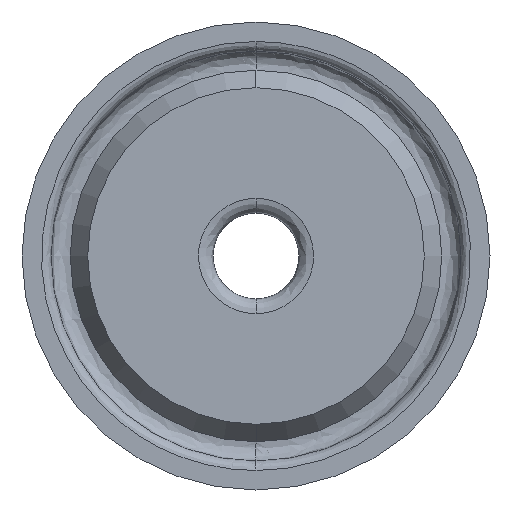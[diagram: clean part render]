
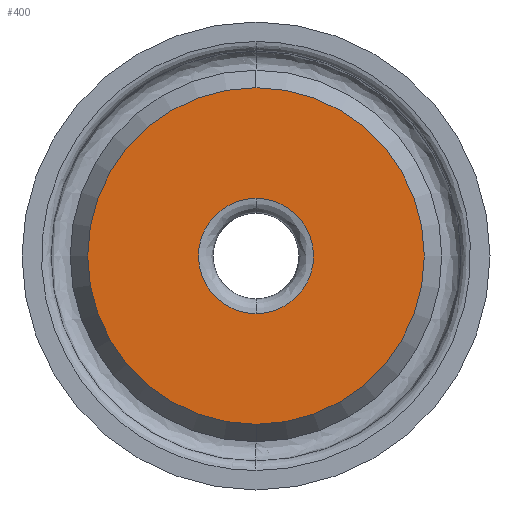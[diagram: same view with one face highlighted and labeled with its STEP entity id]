
A CAD part, left-side view. The second image highlights one B-rep face of the part: STEP entity #400.
In plain terms, the highlighted planar face has unit normal (-1, 0, 0).
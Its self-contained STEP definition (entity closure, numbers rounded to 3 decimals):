
#1 = CARTESIAN_POINT ( 'NONE',  ( 0.787, 0., -8.987 ) ) ;
#5 = FACE_OUTER_BOUND ( 'NONE', #364, .T. ) ;
#16 = CARTESIAN_POINT ( 'NONE',  ( 0.787, 0., 8.987 ) ) ;
#44 = CARTESIAN_POINT ( 'NONE',  ( 0.787, 0., 3.073 ) ) ;
#74 = AXIS2_PLACEMENT_3D ( 'NONE', #478, #403, #433 ) ;
#91 =( BOUNDED_CURVE ( )  B_SPLINE_CURVE ( 3, ( #677, #664, #713, #187 ),
 .UNSPECIFIED., .F., .F. ) 
 B_SPLINE_CURVE_WITH_KNOTS ( ( 4, 4 ),
 ( 0., 1. ),
 .UNSPECIFIED. ) 
 CURVE ( )  GEOMETRIC_REPRESENTATION_ITEM ( )  RATIONAL_B_SPLINE_CURVE ( ( 1., 0.333, 0.333, 1. ) ) 
 REPRESENTATION_ITEM ( '' )  );
#113 = ORIENTED_EDGE ( 'NONE', *, *, #508, .F. ) ;
#118 = EDGE_LOOP ( 'NONE', ( #113, #615 ) ) ;
#168 = ORIENTED_EDGE ( 'NONE', *, *, #498, .F. ) ;
#181 = EDGE_CURVE ( 'NONE', #458, #666, #350, .T. ) ;
#187 = CARTESIAN_POINT ( 'NONE',  ( 0.787, 0., 3.073 ) ) ;
#219 = CARTESIAN_POINT ( 'NONE',  ( 0.787, 3.073, 0. ) ) ;
#240 = VERTEX_POINT ( 'NONE', #1 ) ;
#264 = AXIS2_PLACEMENT_3D ( 'NONE', #219, #714, #657 ) ;
#286 = AXIS2_PLACEMENT_3D ( 'NONE', #533, #529, #522 ) ;
#298 = VERTEX_POINT ( 'NONE', #16 ) ;
#307 = CARTESIAN_POINT ( 'NONE',  ( 0.787, 6.147, 3.073 ) ) ;
#350 =( BOUNDED_CURVE ( )  B_SPLINE_CURVE ( 3, ( #358, #307, #603, #513 ),
 .UNSPECIFIED., .F., .F. ) 
 B_SPLINE_CURVE_WITH_KNOTS ( ( 4, 4 ),
 ( 0., 1. ),
 .UNSPECIFIED. ) 
 CURVE ( )  GEOMETRIC_REPRESENTATION_ITEM ( )  RATIONAL_B_SPLINE_CURVE ( ( 1., 0.333, 0.333, 1. ) ) 
 REPRESENTATION_ITEM ( '' )  );
#358 = CARTESIAN_POINT ( 'NONE',  ( 0.787, 0., 3.073 ) ) ;
#364 = EDGE_LOOP ( 'NONE', ( #168, #526 ) ) ;
#400 = ADVANCED_FACE ( 'NONE', ( #5, #633 ), #723, .F. ) ;
#403 = DIRECTION ( 'NONE',  ( 1., 0., 0. ) ) ;
#433 = DIRECTION ( 'NONE',  ( 0., 0., -1. ) ) ;
#458 = VERTEX_POINT ( 'NONE', #44 ) ;
#472 = CIRCLE ( 'NONE', #74, 8.987 ) ;
#478 = CARTESIAN_POINT ( 'NONE',  ( 0.787, 0., 0. ) ) ;
#498 = EDGE_CURVE ( 'NONE', #240, #298, #600, .T. ) ;
#508 = EDGE_CURVE ( 'NONE', #666, #458, #91, .T. ) ;
#513 = CARTESIAN_POINT ( 'NONE',  ( 0.787, 0., -3.073 ) ) ;
#522 = DIRECTION ( 'NONE',  ( 0., 0., -1. ) ) ;
#526 = ORIENTED_EDGE ( 'NONE', *, *, #669, .F. ) ;
#529 = DIRECTION ( 'NONE',  ( 1., 0., 0. ) ) ;
#533 = CARTESIAN_POINT ( 'NONE',  ( 0.787, 0., 0. ) ) ;
#600 = CIRCLE ( 'NONE', #286, 8.987 ) ;
#603 = CARTESIAN_POINT ( 'NONE',  ( 0.787, 6.147, -3.073 ) ) ;
#615 = ORIENTED_EDGE ( 'NONE', *, *, #181, .F. ) ;
#633 = FACE_BOUND ( 'NONE', #118, .T. ) ;
#657 = DIRECTION ( 'NONE',  ( 0., 0., -1. ) ) ;
#664 = CARTESIAN_POINT ( 'NONE',  ( 0.787, -6.147, -3.073 ) ) ;
#666 = VERTEX_POINT ( 'NONE', #726 ) ;
#669 = EDGE_CURVE ( 'NONE', #298, #240, #472, .T. ) ;
#677 = CARTESIAN_POINT ( 'NONE',  ( 0.787, 0., -3.073 ) ) ;
#713 = CARTESIAN_POINT ( 'NONE',  ( 0.787, -6.147, 3.073 ) ) ;
#714 = DIRECTION ( 'NONE',  ( 1., 0., 0. ) ) ;
#723 = PLANE ( 'NONE',  #264 ) ;
#726 = CARTESIAN_POINT ( 'NONE',  ( 0.787, 0., -3.073 ) ) ;
